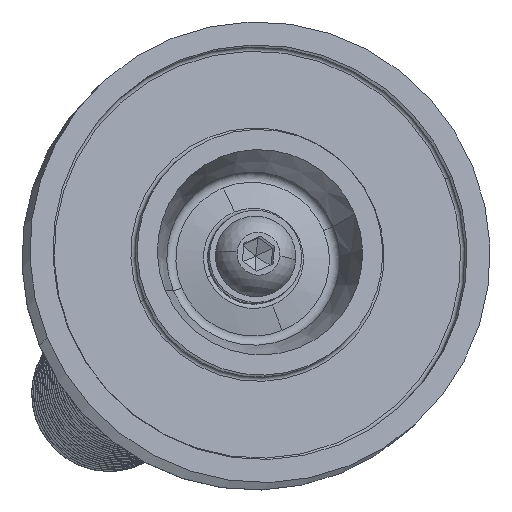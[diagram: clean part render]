
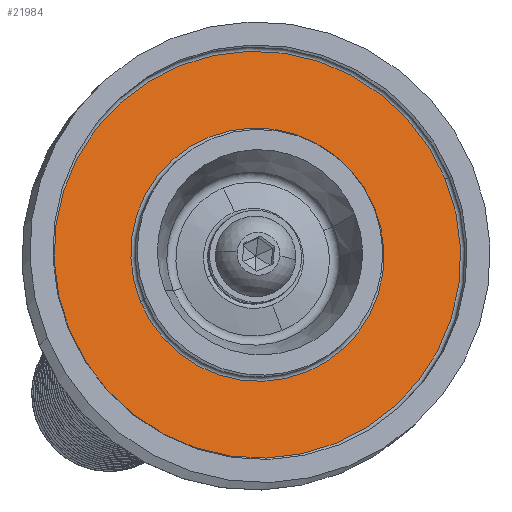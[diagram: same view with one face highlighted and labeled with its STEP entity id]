
A CAD part, front view. The second image highlights one B-rep face of the part: STEP entity #21984.
In plain terms, the highlighted planar face has unit normal (0.112, -0.988, 0.105) as drawn and (-1, 0, 0) by its records, which use the part's own axes.
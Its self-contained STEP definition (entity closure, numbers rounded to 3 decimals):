
#2507 = EDGE_LOOP ( 'NONE', ( #3572, #3573 ) ) ;
#2509 = EDGE_LOOP ( 'NONE', ( #3570, #3571 ) ) ;
#3570 = ORIENTED_EDGE ( 'NONE', *, *, #8532, .T. ) ;
#3571 = ORIENTED_EDGE ( 'NONE', *, *, #18451, .T. ) ;
#3572 = ORIENTED_EDGE ( 'NONE', *, *, #8533, .F. ) ;
#3573 = ORIENTED_EDGE ( 'NONE', *, *, #8530, .F. ) ;
#4275 = AXIS2_PLACEMENT_3D ( 'NONE', #11009, #11014, #11015 ) ;
#7046 = CIRCLE ( 'NONE', #8471, 16.5 ) ;
#8137 = FACE_OUTER_BOUND ( 'NONE', #2507, .T. ) ;
#8150 = FACE_BOUND ( 'NONE', #2509, .T. ) ;
#8471 = AXIS2_PLACEMENT_3D ( 'NONE', #13598, #13599, #13600 ) ;
#8530 = EDGE_CURVE ( 'NONE', #19653, #19594, #21114, .T. ) ;
#8532 = EDGE_CURVE ( 'NONE', #19872, #19961, #21116, .T. ) ;
#8533 = EDGE_CURVE ( 'NONE', #19594, #19653, #21118, .T. ) ;
#9449 = CARTESIAN_POINT ( 'NONE',  ( 34.237, 55.379, -26.5 ) ) ;
#9547 = CARTESIAN_POINT ( 'NONE',  ( 34.237, 55.379, 26.5 ) ) ;
#9912 = CARTESIAN_POINT ( 'NONE',  ( 34.237, 55.379, -16.5 ) ) ;
#10060 = CARTESIAN_POINT ( 'NONE',  ( 34.237, 55.379, 16.5 ) ) ;
#11009 = CARTESIAN_POINT ( 'NONE',  ( 34.237, 66.615, 0. ) ) ;
#11012 = PLANE ( 'NONE',  #4275 ) ;
#11014 = DIRECTION ( 'NONE',  ( -1., 0., 0. ) ) ;
#11015 = DIRECTION ( 'NONE',  ( 0., 0., 1. ) ) ;
#13598 = CARTESIAN_POINT ( 'NONE',  ( 34.237, 55.379, 0. ) ) ;
#13599 = DIRECTION ( 'NONE',  ( 1., 0., 0. ) ) ;
#13600 = DIRECTION ( 'NONE',  ( 0., 0., -1. ) ) ;
#13776 = CARTESIAN_POINT ( 'NONE',  ( 34.237, 55.379, 0. ) ) ;
#13777 = DIRECTION ( 'NONE',  ( 1., 0., 0. ) ) ;
#13778 = DIRECTION ( 'NONE',  ( 0., 0., -1. ) ) ;
#13782 = CARTESIAN_POINT ( 'NONE',  ( 34.237, 55.379, 0. ) ) ;
#13783 = DIRECTION ( 'NONE',  ( 1., 0., 0. ) ) ;
#13784 = DIRECTION ( 'NONE',  ( 0., 0., -1. ) ) ;
#13785 = CARTESIAN_POINT ( 'NONE',  ( 34.237, 55.379, 0. ) ) ;
#13786 = DIRECTION ( 'NONE',  ( 1., 0., 0. ) ) ;
#13787 = DIRECTION ( 'NONE',  ( 0., 0., -1. ) ) ;
#16747 = AXIS2_PLACEMENT_3D ( 'NONE', #13776, #13777, #13778 ) ;
#16749 = AXIS2_PLACEMENT_3D ( 'NONE', #13782, #13783, #13784 ) ;
#16750 = AXIS2_PLACEMENT_3D ( 'NONE', #13785, #13786, #13787 ) ;
#18451 = EDGE_CURVE ( 'NONE', #19961, #19872, #7046, .T. ) ;
#19594 = VERTEX_POINT ( 'NONE', #9449 ) ;
#19653 = VERTEX_POINT ( 'NONE', #9547 ) ;
#19872 = VERTEX_POINT ( 'NONE', #9912 ) ;
#19961 = VERTEX_POINT ( 'NONE', #10060 ) ;
#21114 = CIRCLE ( 'NONE', #16747, 26.5 ) ;
#21116 = CIRCLE ( 'NONE', #16749, 16.5 ) ;
#21118 = CIRCLE ( 'NONE', #16750, 26.5 ) ;
#21984 = ADVANCED_FACE ( 'NONE', ( #8150, #8137 ), #11012, .T. ) ;
